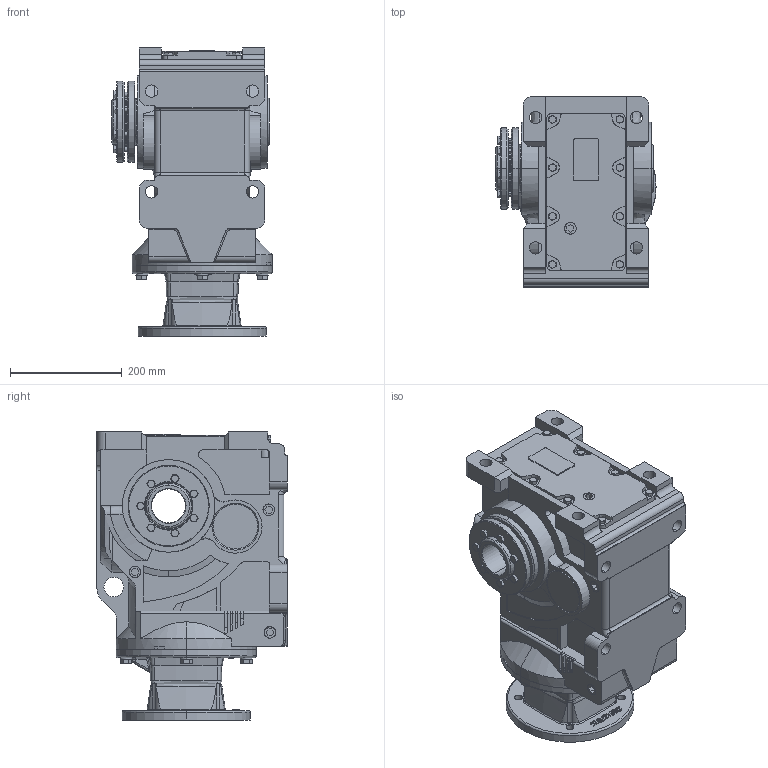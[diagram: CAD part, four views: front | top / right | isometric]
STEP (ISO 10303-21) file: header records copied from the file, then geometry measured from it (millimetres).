
FILE_DESCRIPTION (( 'STEP AP203' ), '1' );
FILE_NAME ('KHN87-213TC-B-POWER LOCK.STEP', '2020-11-25T03:04:55', ( 'Microsoft' ), ( 'Microsoft' ), 'SwSTEP 2.0', 'SolidWorks 2012', '' );
FILE_SCHEMA (( 'CONFIG_CONTROL_DESIGN' ));
Length unit declared in the file: millimetre
Products named in the file (1): KHN87-213TC-B-POWER LOCK
Bounding box: 286 x 340.5 x 514.5 mm (x, y, z)
Volume: 23989036 mm3; surface area: 1091955.5 mm2
Topology: 2 solids, 22 shells, 1585 faces, 4011 edges, 2561 vertices
Faces by surface type: plane 711, cylinder 392, cone 283, bspline 149, torus 50
Entity records: 59510 total; most frequent: CARTESIAN_POINT 22009, ORIENTED_EDGE 7966, DIRECTION 7449, EDGE_CURVE 3983, AXIS2_PLACEMENT_3D 2679, VERTEX_POINT 2561, LINE 2091, VECTOR 2091
